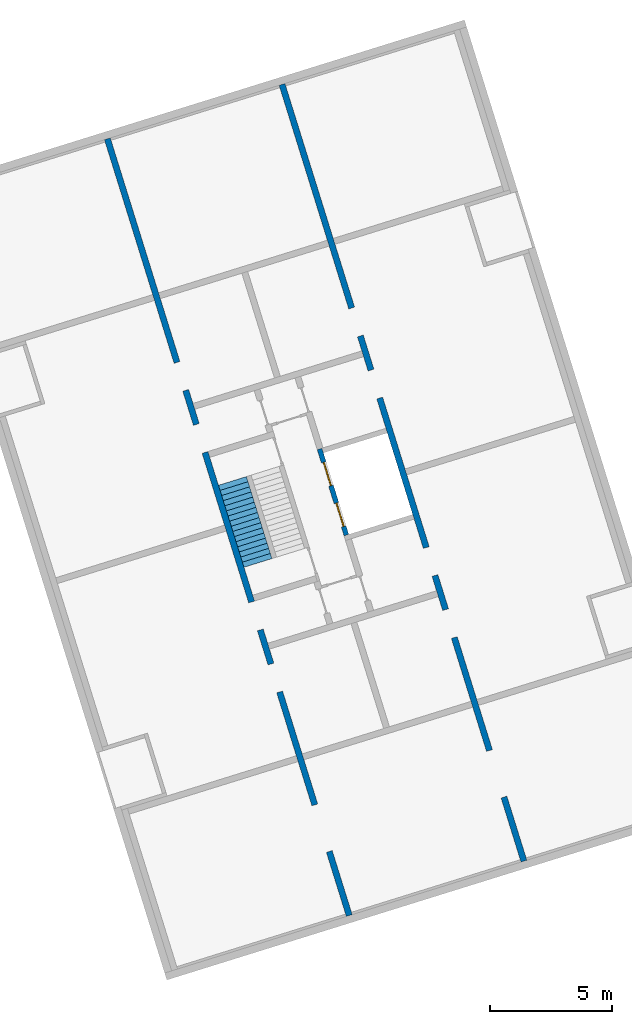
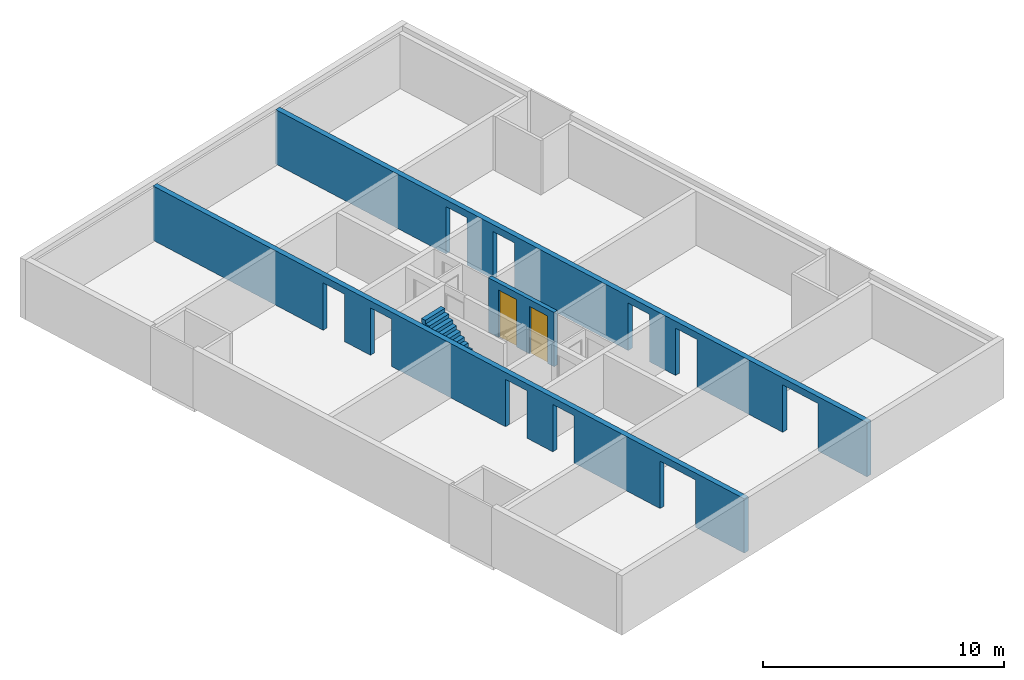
# One storey, part 4 of 5: 3 walls, 2 doors, 1 stair flight, 12 openings, 1 element without a shape of its own.
"""IFC4 building model written with IfcOpenShell, lengths in metres."""

from ifc_helpers import new_model, entity, si_unit, converted_unit, direction, frame, origin, place, context, subcontext, project, spatial, indexed_curve, outline, extrude, polygons, source, transform, mapped, material, type_object, type_shapes, element, fill, aggregate, save


model = new_model("IFC4")

# Units and contexts
model_context = context("Model", 3, precision=1e-05, world=origin(), true_north=direction((6.12323399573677e-17, 1.0)))
body_context = subcontext(model_context, "Body", "Model", "MODEL_VIEW")
ifc_project = project(units=[si_unit("LENGTHUNIT", "METRE"), si_unit("AREAUNIT", "SQUARE_METRE"), si_unit("VOLUMEUNIT", "CUBIC_METRE"), converted_unit("PLANEANGLEUNIT", "DEGREE", entity("IfcPlaneAngleMeasure", 0.0174532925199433), si_unit("PLANEANGLEUNIT", "RADIAN"), dimensions=[0, 0, 0, 0, 0, 0, 0])], contexts=[model_context])

# Site, building, storey
site_placement = place(None, frame((13.1347999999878, 11.9886000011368, 0.0), z_axis=(0.0, 0.0, 1.0), x_axis=(0.954770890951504, 0.297342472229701, 0.0)))
site = spatial("IfcSite", under=ifc_project, at=site_placement, Name="Schiehaven", CompositionType="ELEMENT")
building_placement = place(site_placement, origin())
building = spatial("IfcBuilding", under=site, at=building_placement, Name="VORM huis", CompositionType="ELEMENT")
storey_placement = place(building_placement, frame((0.0, 0.0, 3.9)))
storey = spatial("IfcBuildingStorey", under=building, at=storey_placement, Name="01 eerste verdieping", CompositionType="ELEMENT", Elevation=3.9)

# Wall, openings
ifc_material_1 = material(Name="beton_gewapend_ihw", Category="Miscellaneous")
wall_type_1 = type_object("IfcWallType", Name="Basic Wall:28_WA_skelet_wand 250mm_gen", PredefinedType="STANDARD")
wall_1_placement = place(storey_placement, frame((72.5000000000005, 0.375000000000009, 0.0), z_axis=(0.0, 0.0, 1.0), x_axis=(0.0, 1.0, 0.0)))
wall_1 = element("IfcWall", 1, at=wall_1_placement, inside=storey, type_object=wall_type_1, material=ifc_material_1, Name="Constructieve wand", ObjectType="Wand", PredefinedType="NOTDEFINED", context=body_context, shape_type="Tessellation", body=[
    polygons([(33.3500000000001, -0.125000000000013, -5.41433564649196e-16), (33.3500000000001, -0.125000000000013, 2.75), (4.06075173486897e-16, -0.125000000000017, 2.75), (4.06075173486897e-16, -0.125000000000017, -5.41433564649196e-16), (2.75000000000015, -0.125000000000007, -5.41433564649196e-16), (2.75000000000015, -0.125000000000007, 2.4), (4.75000000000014, -0.12500000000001, 2.4), (4.75000000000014, -0.12500000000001, -5.41433564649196e-16), (9.60000000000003, -0.125000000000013, -5.41433564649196e-16), (9.60000000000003, -0.125000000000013, 2.4), (10.8, -0.125000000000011, 2.4), (10.8, -0.125000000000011, -5.41433564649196e-16), (12.265, -0.125000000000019, -5.41433564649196e-16), (12.265, -0.125000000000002, 2.4), (13.465, -0.125, 2.4), (13.465, -0.125000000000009, -5.41433564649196e-16), (19.885, -0.125000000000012, -5.41433564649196e-16), (19.885, -0.125000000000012, 2.4), (21.085, -0.12500000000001, 2.4), (21.085, -0.12500000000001, -5.41433564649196e-16), (22.55, -0.12500000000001, -5.41433564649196e-16), (22.55, -0.12500000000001, 2.4), (23.75, -0.125, 2.4), (23.75, -0.125000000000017, -5.41433564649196e-16), (33.3500000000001, 0.124999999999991, 2.75), (33.3500000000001, 0.124999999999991, -5.41433564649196e-16), (23.75, 0.124999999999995, -5.41433564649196e-16), (23.75, 0.124999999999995, 2.4), (22.55, 0.124999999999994, 2.4), (22.55, 0.124999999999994, -5.41433564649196e-16), (21.95, 0.124999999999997, 0.0), (21.7, 0.124999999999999, 0.0), (21.085, 0.124999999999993, -5.41433564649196e-16), (21.085, 0.124999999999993, 2.4), (19.885, 0.124999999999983, 2.4), (19.885, 0.124999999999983, -5.41433564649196e-16), (13.465, 0.125000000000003, -5.41433564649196e-16), (13.465, 0.125000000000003, 2.4), (12.265, 0.124999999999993, 2.4), (12.265, 0.124999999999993, -5.41433564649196e-16), (11.65, 0.124999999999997, 0.0), (11.4, 0.124999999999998, 0.0), (10.8, 0.124999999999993, -5.41433564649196e-16), (10.8, 0.124999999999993, 2.4), (9.60000000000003, 0.124999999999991, 2.4), (9.60000000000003, 0.124999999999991, -5.41433564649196e-16), (4.75000000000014, 0.124999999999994, -5.41433564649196e-16), (4.75000000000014, 0.124999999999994, 2.4), (2.75000000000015, 0.124999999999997, 2.4), (2.75000000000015, 0.124999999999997, -5.41433564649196e-16), (5.41433564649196e-16, 0.124999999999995, -5.41433564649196e-16), (5.41433564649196e-16, 0.124999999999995, 2.75), (11.4, 0.124999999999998, 2.75), (11.65, 0.124999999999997, 2.75), (21.7, 0.124999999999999, 2.75), (21.95, 0.124999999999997, 2.75)], [[[1, 2, 3, 4, 5, 6, 7, 8, 9, 10, 11, 12, 13, 14, 15, 16, 17, 18, 19, 20, 21, 22, 23, 24]], [[25, 26, 27, 28, 29, 30, 31, 32, 33, 34, 35, 36, 37, 38, 39, 40, 41, 42, 43, 44, 45, 46, 47, 48, 49, 50, 51, 52, 53, 54, 55, 56]], [[4, 51, 50, 5]], [[2, 1, 26, 25]], [[3, 2, 25, 56, 55, 54, 53, 52]], [[4, 3, 52, 51]], [[45, 10, 9, 46]], [[11, 44, 43, 12]], [[10, 45, 44, 11]], [[14, 39, 38, 15]], [[39, 14, 13, 40]], [[15, 38, 37, 16]], [[18, 35, 34, 19]], [[35, 18, 17, 36]], [[19, 34, 33, 20]], [[22, 29, 28, 23]], [[29, 22, 21, 30]], [[23, 28, 27, 24]], [[6, 49, 48, 7]], [[49, 6, 5, 50]], [[7, 48, 47, 8]], [[12, 43, 42, 41, 40, 13]], [[16, 37, 36, 17]], [[20, 33, 32, 31, 30, 21]], [[26, 1, 24, 27]], [[46, 9, 8, 47]]], closed=True),
])
opening_1_placement = place(wall_1_placement, origin())
element("IfcOpeningElement", 2, at=opening_1_placement, cuts=wall_1, Name="Constructieve wand", PredefinedType="OPENING", context=body_context, shape_type="SweptSolid", body=[
    extrude(outline(indexed_curve([(-1.2, -0.599999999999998), (1.2, -0.599999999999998), (1.2, 0.599999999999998), (-1.2, 0.599999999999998), (-1.2, -0.599999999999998)], self_intersect=False)), frame((10.2, -0.125000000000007, 1.2), z_axis=(0.0, 1.0, 0.0), x_axis=(0.0, 0.0, -1.0)), (0.0, 0.0, 1.0), 0.250000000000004),
])
opening_2_placement = place(wall_1_placement, origin())
element("IfcOpeningElement", 3, at=opening_2_placement, cuts=wall_1, Name="Constructieve wand", PredefinedType="OPENING", context=body_context, shape_type="SweptSolid", body=[
    extrude(outline(indexed_curve([(-1.2, -0.599999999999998), (1.2, -0.599999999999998), (1.2, 0.599999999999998), (-1.2, 0.599999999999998), (-1.2, -0.599999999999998)], self_intersect=False)), frame((12.865, -0.124999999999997, 1.2), z_axis=(0.0, 1.0, 0.0), x_axis=(0.0, 0.0, -1.0)), (0.0, 0.0, 1.0), 0.250000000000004),
])
opening_3_placement = place(wall_1_placement, origin())
element("IfcOpeningElement", 4, at=opening_3_placement, cuts=wall_1, Name="Constructieve wand", PredefinedType="OPENING", context=body_context, shape_type="SweptSolid", body=[
    extrude(outline(indexed_curve([(-1.2, -0.599999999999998), (1.2, -0.599999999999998), (1.2, 0.599999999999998), (-1.2, 0.599999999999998), (-1.2, -0.599999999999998)], self_intersect=False)), frame((20.485, -0.124999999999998, 1.2), z_axis=(0.0, 1.0, 0.0), x_axis=(0.0, 0.0, -1.0)), (0.0, 0.0, 1.0), 0.250000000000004),
])
opening_4_placement = place(wall_1_placement, origin())
element("IfcOpeningElement", 5, at=opening_4_placement, cuts=wall_1, Name="Constructieve wand", PredefinedType="OPENING", context=body_context, shape_type="SweptSolid", body=[
    extrude(outline(indexed_curve([(-1.2, -0.599999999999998), (1.2, -0.599999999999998), (1.2, 0.599999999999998), (-1.2, 0.599999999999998), (-1.2, -0.599999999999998)], self_intersect=False)), frame((23.15, -0.125000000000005, 1.2), z_axis=(0.0, 1.0, 0.0), x_axis=(0.0, 0.0, -1.0)), (0.0, 0.0, 1.0), 0.250000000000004),
])
opening_5_placement = place(wall_1_placement, origin())
element("IfcOpeningElement", 6, at=opening_5_placement, cuts=wall_1, Name="Constructieve wand", PredefinedType="OPENING", context=body_context, shape_type="SweptSolid", body=[
    extrude(outline(indexed_curve([(-1.2, -0.999999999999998), (1.2, -0.999999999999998), (1.2, 0.999999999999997), (-1.2, 0.999999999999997), (-1.2, -0.999999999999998)], self_intersect=False)), frame((3.75000000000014, -0.125000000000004, 1.2), z_axis=(0.0, 1.0, 0.0), x_axis=(0.0, 0.0, -1.0)), (0.0, 0.0, 1.0), 0.249999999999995),
])

wall_2_placement = place(storey_placement, frame((65.0, 33.725, 0.0), z_axis=(0.0, 0.0, 1.0), x_axis=(0.0, -1.0, 0.0)))
wall_2 = element("IfcWall", 7, at=wall_2_placement, inside=storey, type_object=wall_type_1, material=ifc_material_1, Name="Constructieve wand", ObjectType="Wand", PredefinedType="NOTDEFINED", context=body_context, shape_type="Tessellation", body=[
    polygons([(33.35, -0.125000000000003, -5.41433564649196e-16), (33.35, -0.125000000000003, 2.75), (4.33146851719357e-15, -0.125000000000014, 2.75), (4.33146851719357e-15, -0.125000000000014, -5.41433564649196e-16), (9.6, -0.125000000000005, -5.41433564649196e-16), (9.6, -0.125000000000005, 2.4), (10.8, -0.125000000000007, 2.4), (10.8, -0.125000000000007, -5.41433564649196e-16), (12.265, -0.125000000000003, -5.41433564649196e-16), (12.265, -0.125000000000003, 2.4), (13.465, -0.125000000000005, 2.4), (13.465, -0.125000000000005, -5.41433564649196e-16), (19.885, -0.125000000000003, -5.41433564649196e-16), (19.885, -0.125000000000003, 2.4), (21.085, -0.125000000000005, 2.4), (21.085, -0.125000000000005, -5.41433564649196e-16), (22.55, -0.125000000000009, -5.41433564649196e-16), (22.55, -0.124999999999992, 2.4), (23.75, -0.124999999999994, 2.4), (23.75, -0.125000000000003, -5.41433564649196e-16), (28.5999999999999, -0.125000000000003, -5.41433564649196e-16), (28.5999999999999, -0.125000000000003, 2.4), (30.5999999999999, -0.124999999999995, 2.4), (30.5999999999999, -0.125000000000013, -5.41433564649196e-16), (33.35, 0.125000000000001, 2.75), (33.35, 0.125000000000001, -5.41433564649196e-16), (30.5999999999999, 0.125, -5.41433564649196e-16), (30.5999999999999, 0.125, 2.4), (28.5999999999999, 0.125, 2.4), (28.5999999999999, 0.125, -5.41433564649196e-16), (23.75, 0.12500000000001, -5.41433564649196e-16), (23.75, 0.12500000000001, 2.4), (22.55, 0.125000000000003, 2.4), (22.55, 0.125000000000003, -5.41433564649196e-16), (21.95, 0.125, 0.0), (21.7, 0.125000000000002, 0.0), (21.085, 0.124999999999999, -5.41433564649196e-16), (21.085, 0.124999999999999, 2.4), (19.885, 0.124999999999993, 2.4), (19.885, 0.124999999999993, -5.41433564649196e-16), (13.465, 0.124999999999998, -5.41433564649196e-16), (13.465, 0.124999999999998, 2.4), (12.265, 0.124999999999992, 2.4), (12.265, 0.124999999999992, -5.41433564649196e-16), (11.65, 0.124999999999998, 0.0), (11.4, 0.125, 0.0), (10.8, 0.124999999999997, -5.41433564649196e-16), (10.8, 0.124999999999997, 2.4), (9.60000000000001, 0.124999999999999, 2.4), (9.60000000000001, 0.124999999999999, -5.41433564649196e-16), (4.33146851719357e-15, 0.124999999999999, -5.41433564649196e-16), (4.33146851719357e-15, 0.124999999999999, 2.75), (11.4, 0.125, 2.75), (11.65, 0.124999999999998, 2.75), (21.7, 0.125000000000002, 2.75), (21.95, 0.125, 2.75)], [[[1, 2, 3, 4, 5, 6, 7, 8, 9, 10, 11, 12, 13, 14, 15, 16, 17, 18, 19, 20, 21, 22, 23, 24]], [[25, 26, 27, 28, 29, 30, 31, 32, 33, 34, 35, 36, 37, 38, 39, 40, 41, 42, 43, 44, 45, 46, 47, 48, 49, 50, 51, 52, 53, 54, 55, 56]], [[4, 51, 50, 5]], [[2, 1, 26, 25]], [[3, 2, 25, 56, 55, 54, 53, 52]], [[4, 3, 52, 51]], [[6, 49, 48, 7]], [[49, 6, 5, 50]], [[7, 48, 47, 8]], [[10, 43, 42, 11]], [[43, 10, 9, 44]], [[11, 42, 41, 12]], [[18, 33, 32, 19]], [[33, 18, 17, 34]], [[19, 32, 31, 20]], [[14, 39, 38, 15]], [[39, 14, 13, 40]], [[15, 38, 37, 16]], [[22, 29, 28, 23]], [[29, 22, 21, 30]], [[23, 28, 27, 24]], [[8, 47, 46, 45, 44, 9]], [[12, 41, 40, 13]], [[20, 31, 30, 21]], [[26, 1, 24, 27]], [[34, 17, 16, 37, 36, 35]]], closed=True),
])
opening_6_placement = place(wall_2_placement, origin())
element("IfcOpeningElement", 8, at=opening_6_placement, cuts=wall_2, Name="Constructieve wand", PredefinedType="OPENING", context=body_context, shape_type="SweptSolid", body=[
    extrude(outline(indexed_curve([(-1.2, -0.599999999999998), (1.2, -0.599999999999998), (1.2, 0.599999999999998), (-1.2, 0.599999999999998), (-1.2, -0.599999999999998)], self_intersect=False)), frame((10.2, -0.125000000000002, 1.2), z_axis=(0.0, 1.0, 0.0), x_axis=(0.0, 0.0, -1.0)), (0.0, 0.0, 1.0), 0.250000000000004),
])
opening_7_placement = place(wall_2_placement, origin())
element("IfcOpeningElement", 9, at=opening_7_placement, cuts=wall_2, Name="Constructieve wand", PredefinedType="OPENING", context=body_context, shape_type="SweptSolid", body=[
    extrude(outline(indexed_curve([(-1.2, -0.599999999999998), (1.2, -0.599999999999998), (1.2, 0.599999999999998), (-1.2, 0.599999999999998), (-1.2, -0.599999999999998)], self_intersect=False)), frame((12.865, -0.124999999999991, 1.2), z_axis=(0.0, 1.0, 0.0), x_axis=(0.0, 0.0, -1.0)), (0.0, 0.0, 1.0), 0.250000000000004),
])
opening_8_placement = place(wall_2_placement, origin())
element("IfcOpeningElement", 10, at=opening_8_placement, cuts=wall_2, Name="Constructieve wand", PredefinedType="OPENING", context=body_context, shape_type="SweptSolid", body=[
    extrude(outline(indexed_curve([(-1.2, -0.599999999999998), (1.2, -0.599999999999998), (1.2, 0.599999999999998), (-1.2, 0.599999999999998), (-1.2, -0.599999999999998)], self_intersect=False)), frame((23.15, -0.124999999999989, 1.2), z_axis=(0.0, 1.0, 0.0), x_axis=(0.0, 0.0, -1.0)), (0.0, 0.0, 1.0), 0.250000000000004),
])
opening_9_placement = place(wall_2_placement, origin())
element("IfcOpeningElement", 11, at=opening_9_placement, cuts=wall_2, Name="Constructieve wand", PredefinedType="OPENING", context=body_context, shape_type="SweptSolid", body=[
    extrude(outline(indexed_curve([(-1.2, -0.599999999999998), (1.2, -0.599999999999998), (1.2, 0.599999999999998), (-1.2, 0.599999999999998), (-1.2, -0.599999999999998)], self_intersect=False)), frame((20.485, -0.124999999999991, 1.2), z_axis=(0.0, 1.0, 0.0), x_axis=(0.0, 0.0, -1.0)), (0.0, 0.0, 1.0), 0.250000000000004),
])
opening_10_placement = place(wall_2_placement, origin())
element("IfcOpeningElement", 12, at=opening_10_placement, cuts=wall_2, Name="Constructieve wand", PredefinedType="OPENING", context=body_context, shape_type="SweptSolid", body=[
    extrude(outline(indexed_curve([(-1.2, -0.999999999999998), (1.2, -0.999999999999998), (1.2, 0.999999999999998), (-1.2, 0.999999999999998), (-1.2, -0.999999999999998)], self_intersect=False)), frame((29.5999999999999, -0.124999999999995, 1.2), z_axis=(0.0, 1.0, 0.0), x_axis=(0.0, 0.0, -1.0)), (0.0, 0.0, 1.0), 0.249999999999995),
])

# Wall, openings, doors
ifc_material_2 = material(Name="beton_gewapend_prefab-element", Category="Miscellaneous")
wall_type_2 = type_object("IfcWallType", Name="Basic Wall:28_WA_skelet_wand 200mm_gen", PredefinedType="STANDARD")
wall_3_placement = place(storey_placement, frame((69.5250000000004, 15.3, 0.0), z_axis=(0.0, 0.0, 1.0), x_axis=(0.0, 1.0, 0.0)))
wall_3 = element("IfcWall", 13, at=wall_3_placement, inside=storey, type_object=wall_type_2, material=ifc_material_2, Name="Constructieve wand", ObjectType="Wand", PredefinedType="NOTDEFINED", context=body_context, shape_type="Tessellation", body=[
    polygons([(3.69999999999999, -0.0999999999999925, 2.75), (3.49999999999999, -0.1, 2.75), (2.16573425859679e-15, -0.0999999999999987, 2.75), (2.16573425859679e-15, -0.0999999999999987, -5.41433564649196e-16), (0.374999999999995, -0.100000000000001, -5.41433564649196e-16), (0.374999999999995, -0.100000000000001, 2.39999999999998), (1.37499999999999, -0.0999999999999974, 2.39999999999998), (1.375, -0.0999999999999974, -5.41433564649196e-16), (2.125, -0.100000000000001, -5.41433564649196e-16), (2.125, -0.100000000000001, 2.39999999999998), (3.125, -0.0999999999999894, 2.39999999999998), (3.125, -0.0999999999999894, -5.41433564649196e-16), (3.49999999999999, -0.1, 0.0), (3.69999999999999, -0.0999999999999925, -5.41433564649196e-16), (0.0, 0.0999999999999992, 2.75), (3.69999999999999, 0.0999999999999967, 2.75), (3.69999999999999, 0.0999999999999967, -5.41433564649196e-16), (3.125, 0.0999999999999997, -5.41433564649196e-16), (3.125, 0.0999999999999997, 2.39999999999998), (2.125, 0.100000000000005, 2.39999999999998), (2.125, 0.0999999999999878, -5.41433564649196e-16), (1.37499999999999, 0.0999999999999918, -5.41433564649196e-16), (1.37499999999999, 0.0999999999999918, 2.39999999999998), (0.374999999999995, 0.0999999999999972, 2.39999999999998), (0.374999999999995, 0.0999999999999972, -5.41433564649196e-16), (0.0, 0.0999999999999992, -5.41433564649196e-16)], [[[1, 2, 3, 4, 5, 6, 7, 8, 9, 10, 11, 12, 13, 14]], [[15, 16, 17, 18, 19, 20, 21, 22, 23, 24, 25, 26]], [[5, 4, 26, 25]], [[3, 2, 1, 16, 15]], [[7, 23, 22, 8]], [[24, 6, 5, 25]], [[23, 7, 6, 24]], [[11, 19, 18, 12]], [[20, 10, 9, 21]], [[19, 11, 10, 20]], [[4, 3, 15, 26]], [[1, 14, 17, 16]], [[8, 22, 21, 9]], [[17, 14, 13, 12, 18]]], closed=True),
])
opening_11_placement = place(wall_3_placement, frame((-15.3, 69.5250000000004, 0.0), z_axis=(0.0, 0.0, 1.0), x_axis=(0.0, -1.0, 0.0)))
opening_11 = element("IfcOpeningElement", 14, at=opening_11_placement, cuts=wall_3, Name="Brandweerlift", PredefinedType="OPENING", context=body_context, shape_type="SweptSolid", body=[
    extrude(outline(indexed_curve([(-1.19999999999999, -0.500000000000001), (1.19999999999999, -0.500000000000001), (1.19999999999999, 0.499999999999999), (-1.19999999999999, 0.499999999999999), (-1.19999999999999, -0.500000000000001)], self_intersect=False)), frame((70.0126380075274, 16.175, 1.19999999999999), z_axis=(-1.0, 0.0, 0.0), x_axis=(0.0, 0.0, -1.0)), (0.0, 0.0, 1.0), 0.756310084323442),
])
opening_12_placement = place(wall_3_placement, frame((-15.3, 69.5250000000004, 0.0), z_axis=(0.0, 0.0, 1.0), x_axis=(0.0, -1.0, 0.0)))
opening_12 = element("IfcOpeningElement", 15, at=opening_12_placement, cuts=wall_3, Name="Brandweerlift", PredefinedType="OPENING", context=body_context, shape_type="SweptSolid", body=[
    extrude(outline(indexed_curve([(-1.19999999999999, -0.499999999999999), (1.19999999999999, -0.499999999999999), (1.19999999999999, 0.500000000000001), (-1.19999999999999, 0.500000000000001), (-1.19999999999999, -0.499999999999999)], self_intersect=False)), frame((70.0126380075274, 17.9250000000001, 1.19999999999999), z_axis=(-1.0, 0.0, 0.0), x_axis=(0.0, 0.0, -1.0)), (0.0, 0.0, 1.0), 0.756310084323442),
])
ifc_material_3 = material(Name="metaal_aluminium_ntb", Category="Miscellaneous")
door_type = type_object("IfcDoorType", Name="66_WI_liftdeur:brandweerlift - tweezijdig toegankelijk", OperationType="NOTDEFINED", PredefinedType="DOOR", material=ifc_material_3)
shared_shape = source(origin(), body_context, "Body", "SweptSolid", [
    extrude(outline(indexed_curve([(-0.25, -0.0250000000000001), (0.25, -0.0249999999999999), (0.25, 0.0250000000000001), (-0.25, 0.0249999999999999), (-0.25, -0.0250000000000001)], self_intersect=False)), frame((0.750000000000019, -0.28763800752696, 0.0)), (0.0, 0.0, 1.0), 2.39999999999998),
    extrude(outline(indexed_curve([(-0.25, -0.0250000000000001), (0.25, -0.0249999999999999), (0.25, 0.0250000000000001), (-0.25, 0.0249999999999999), (-0.25, -0.0250000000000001)], self_intersect=False)), frame((0.250000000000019, -0.287638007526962, 0.0)), (0.0, 0.0, 1.0), 2.39999999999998),
])
type_shapes(door_type, [shared_shape])
door_1_placement = place(opening_11_placement, frame((69.2373619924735, 15.675, 0.0), z_axis=(0.0, 0.0, 1.0), x_axis=(0.0, 1.0, 0.0)))
door_1 = element("IfcDoor", 16, at=door_1_placement, inside=storey, type_object=door_type, material=ifc_material_3, Name="Brandweerlift", ObjectType="Transport", OperationType="NOTDEFINED", OverallHeight=2.39999999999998, OverallWidth=1.0, PredefinedType="DOOR", context=body_context, shape_type="MappedRepresentation", body=[
    mapped(shared_shape, transform((0.0, 0.0, 0.0), scale=1.0)),
])
fill(opening_11, door_1)
door_2_placement = place(opening_12_placement, frame((69.2373619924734, 17.425, 0.0), z_axis=(0.0, 0.0, 1.0), x_axis=(0.0, 1.0, 0.0)))
door_2 = element("IfcDoor", 17, at=door_2_placement, inside=storey, type_object=door_type, material=ifc_material_3, Name="Brandweerlift", ObjectType="Transport", OperationType="NOTDEFINED", OverallHeight=2.39999999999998, OverallWidth=1.0, PredefinedType="DOOR", context=body_context, shape_type="MappedRepresentation", body=[
    mapped(shared_shape, transform((0.0, 0.0, 0.0), scale=1.0)),
])
fill(opening_12, door_2)

# Stair, stair flight
stair_type = type_object("IfcStairType", Name="Trap", PredefinedType="STRAIGHT_RUN_STAIR")
stair_placement = place(storey_placement, origin())
stair = element("IfcStair", 18, at=stair_placement, inside=storey, type_object=stair_type, Name="Hoofdtrap", ObjectType="Trap", PredefinedType="STRAIGHT_RUN_STAIR")
stair_flight_type = type_object("IfcStairFlightType", Name="Monolithic Run:NLRS_24_STRR_trap-beton prefab-monolithisch-recht_gen_rsf", PredefinedType="STRAIGHT")
stair_flight_placement = place(stair_placement, frame((65.1250000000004, 15.29, 0.0)))
stair_flight = element("IfcStairFlight", 19, at=stair_flight_placement, type_object=stair_flight_type, material=ifc_material_2, Name="Hoofdtrap Run 1", ObjectType="Monolithic Run:NLRS_24_STRR_trap-beton prefab-monolithisch-recht_gen_rsf", PredefinedType="STRAIGHT", context=body_context, shape_type="Tessellation", body=[
    polygons([(1.4210854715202e-14, 0.220000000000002, 0.1875), (1.4210854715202e-14, 1.77635683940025e-15, 0.1875), (1.20000000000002, 1.77635683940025e-15, 0.1875), (1.20000000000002, 0.220000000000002, 0.1875), (1.20000000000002, 1.77635683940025e-15, -4.44089209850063e-16), (1.20000000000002, 0.220000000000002, -4.44089209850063e-16), (1.4210854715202e-14, 1.77635683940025e-15, -4.44089209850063e-16), (1.4210854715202e-14, 0.220000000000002, -4.44089209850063e-16), (1.4210854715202e-14, 0.440000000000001, 0.375), (1.4210854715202e-14, 0.220000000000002, 0.375), (1.20000000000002, 0.220000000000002, 0.375), (1.20000000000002, 0.440000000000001, 0.375), (1.20000000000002, 0.231248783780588, 8.88178419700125e-16), (1.20000000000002, 0.440000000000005, 0.177912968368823), (1.4210854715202e-14, 0.440000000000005, 0.177912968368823), (1.4210854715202e-14, 0.231248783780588, 8.88178419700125e-16), (1.4210854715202e-14, 0.659999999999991, 0.5625), (1.4210854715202e-14, 0.440000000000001, 0.5625), (1.20000000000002, 0.440000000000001, 0.5625), (1.20000000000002, 0.659999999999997, 0.5625), (1.20000000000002, 0.660000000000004, 0.365412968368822), (1.4210854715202e-14, 0.660000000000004, 0.365412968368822), (1.4210854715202e-14, 0.879999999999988, 0.75), (1.4210854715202e-14, 0.659999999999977, 0.75), (1.20000000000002, 0.659999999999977, 0.75), (1.20000000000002, 0.879999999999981, 0.75), (1.20000000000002, 0.879999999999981, 0.5529129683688), (0.0, 0.879999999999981, 0.5529129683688), (0.0, 1.1, 0.9375), (0.0, 0.880000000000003, 0.9375), (1.20000000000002, 0.880000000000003, 0.9375), (1.20000000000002, 1.1, 0.9375), (1.20000000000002, 1.1, 0.740412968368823), (0.0, 1.1, 0.740412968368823), (0.0, 1.32, 1.125), (0.0, 1.1, 1.125), (1.20000000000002, 1.1, 1.125), (1.20000000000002, 1.32, 1.125), (1.20000000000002, 1.32, 0.927912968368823), (0.0, 1.32, 0.927912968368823), (0.0, 1.54, 1.3125), (0.0, 1.32, 1.3125), (1.20000000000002, 1.32, 1.3125), (1.20000000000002, 1.54, 1.3125), (1.20000000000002, 1.54000000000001, 1.11541296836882), (0.0, 1.54000000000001, 1.11541296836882), (0.0, 1.76, 1.5), (0.0, 1.54, 1.5), (1.20000000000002, 1.54, 1.5), (1.20000000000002, 1.76, 1.5), (1.20000000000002, 1.76000000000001, 1.30291296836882), (0.0, 1.76000000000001, 1.30291296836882), (0.0, 1.98, 1.6875), (0.0, 1.76000000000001, 1.6875), (1.20000000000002, 1.76000000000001, 1.6875), (1.20000000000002, 1.98, 1.6875), (1.20000000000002, 1.98000000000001, 1.49041296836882), (0.0, 1.98000000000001, 1.49041296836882), (0.0, 2.2, 1.875), (0.0, 1.98, 1.875), (1.20000000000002, 1.98, 1.875), (1.20000000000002, 2.2, 1.875), (1.20000000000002, 2.2, 1.67791296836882), (0.0, 2.2, 1.67791296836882), (0.0, 2.41999999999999, 2.0625), (0.0, 2.2, 2.0625), (1.20000000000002, 2.2, 2.0625), (1.20000000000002, 2.42, 2.0625), (1.20000000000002, 2.42000000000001, 1.86541296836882), (0.0, 2.42000000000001, 1.86541296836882), (0.0, 2.63999999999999, 2.25), (0.0, 2.41999999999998, 2.25), (1.20000000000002, 2.41999999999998, 2.25), (1.20000000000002, 2.63999999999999, 2.25), (1.20000000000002, 2.63999999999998, 2.0529129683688), (0.0, 2.63999999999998, 2.0529129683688), (0.0, 2.86, 2.4375), (0.0, 2.64, 2.4375), (1.2, 2.64, 2.4375), (1.2, 2.86, 2.4375), (1.2, 2.86, 2.24041296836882), (0.0, 2.86, 2.24041296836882), (0.0, 3.08, 2.625), (0.0, 2.86, 2.625), (1.2, 2.86, 2.625), (1.2, 3.08, 2.625), (1.2, 3.08, 2.42791296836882), (0.0, 3.08, 2.42791296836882), (0.0, 3.3, 2.8125), (0.0, 3.08000000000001, 2.8125), (1.2, 3.08000000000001, 2.8125), (1.2, 3.3, 2.8125), (1.2, 3.3, 2.61541296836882), (0.0, 3.3, 2.61541296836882), (0.0, 3.52, 3.0), (0.0, 3.3, 3.0), (1.2, 3.3, 3.0), (1.2, 3.52, 3.0), (1.2, 3.52, 2.80291296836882), (0.0, 3.52, 2.80291296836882)], [[[1, 2, 3, 4]], [[4, 3, 5, 6]], [[3, 2, 7, 5]], [[2, 1, 8, 7]], [[9, 10, 11, 12]], [[4, 6, 13, 14, 12, 11]], [[1, 4, 11, 10]], [[8, 1, 10, 9, 15, 16]], [[17, 18, 19, 20]], [[20, 19, 12, 14, 21]], [[9, 12, 19, 18]], [[18, 17, 22, 15, 9]], [[23, 24, 25, 26]], [[26, 25, 20, 21, 27]], [[17, 20, 25, 24]], [[24, 23, 28, 22, 17]], [[29, 30, 31, 32]], [[32, 31, 26, 27, 33]], [[23, 26, 31, 30]], [[30, 29, 34, 28, 23]], [[35, 36, 37, 38]], [[38, 37, 32, 33, 39]], [[29, 32, 37, 36]], [[36, 35, 40, 34, 29]], [[41, 42, 43, 44]], [[44, 43, 38, 39, 45]], [[35, 38, 43, 42]], [[42, 41, 46, 40, 35]], [[47, 48, 49, 50]], [[50, 49, 44, 45, 51]], [[41, 44, 49, 48]], [[48, 47, 52, 46, 41]], [[53, 54, 55, 56]], [[56, 55, 50, 51, 57]], [[47, 50, 55, 54]], [[54, 53, 58, 52, 47]], [[59, 60, 61, 62]], [[62, 61, 56, 57, 63]], [[53, 56, 61, 60]], [[60, 59, 64, 58, 53]], [[65, 66, 67, 68]], [[68, 67, 62, 63, 69]], [[59, 62, 67, 66]], [[66, 65, 70, 64, 59]], [[71, 72, 73, 74]], [[74, 73, 68, 69, 75]], [[65, 68, 73, 72]], [[72, 71, 76, 70, 65]], [[77, 78, 79, 80]], [[80, 79, 74, 75, 81]], [[71, 74, 79, 78]], [[78, 77, 82, 76, 71]], [[83, 84, 85, 86]], [[86, 85, 80, 81, 87]], [[77, 80, 85, 84]], [[84, 83, 88, 82, 77]], [[89, 90, 91, 92]], [[92, 91, 86, 87, 93]], [[83, 86, 91, 90]], [[90, 89, 94, 88, 83]], [[95, 96, 97, 98]], [[98, 97, 92, 93, 99]], [[89, 92, 97, 96]], [[96, 95, 100, 94, 89]], [[95, 98, 99, 100]], [[7, 8, 16, 13, 6, 5]], [[13, 16, 15, 22, 28, 34, 40, 46, 52, 58, 64, 70, 76, 82, 88, 94, 100, 99, 93, 87, 81, 75, 69, 63, 57, 51, 45, 39, 33, 27, 21, 14]]], closed=True),
])
aggregate(stair, [stair_flight])

save(model, "model.ifc")
